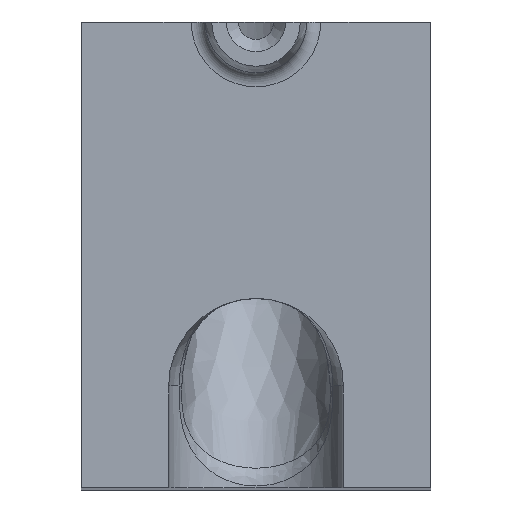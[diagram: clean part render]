
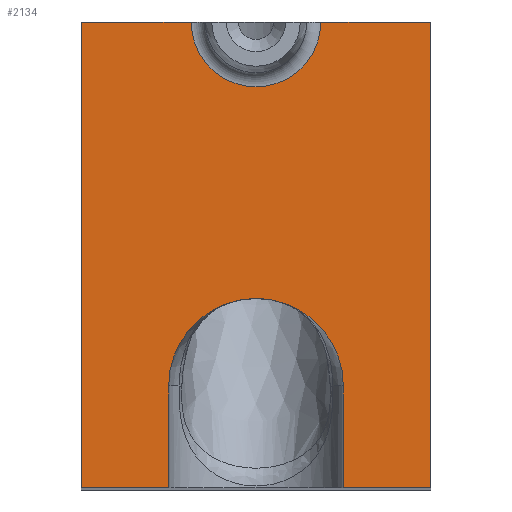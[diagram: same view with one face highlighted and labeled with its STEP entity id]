
A CAD part, top view. The second image highlights one B-rep face of the part: STEP entity #2134.
In plain terms, the highlighted planar face has unit normal (0, 0, 1).
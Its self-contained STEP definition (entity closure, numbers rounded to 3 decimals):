
#153=DIRECTION('',(0.,1.,0.));
#154=VECTOR('',#153,1.75);
#155=CARTESIAN_POINT('',(-1.5,-8.,0.));
#156=LINE('',#155,#154);
#197=DIRECTION('',(0.,-1.,0.));
#198=VECTOR('',#197,1.75);
#199=CARTESIAN_POINT('',(1.5,-6.25,0.));
#200=LINE('',#199,#198);
#206=DIRECTION('',(1.,0.,0.));
#207=VECTOR('',#206,1.5);
#208=CARTESIAN_POINT('',(1.5,-8.,0.));
#209=LINE('',#208,#207);
#218=DIRECTION('',(1.,0.,0.));
#219=VECTOR('',#218,1.5);
#220=CARTESIAN_POINT('',(-3.,-8.,0.));
#221=LINE('',#220,#219);
#222=DIRECTION('',(0.,1.,0.));
#223=VECTOR('',#222,8.);
#224=CARTESIAN_POINT('',(-3.,-8.,0.));
#225=LINE('',#224,#223);
#226=DIRECTION('',(1.,0.,0.));
#227=VECTOR('',#226,1.887);
#228=CARTESIAN_POINT('',(-3.,0.,0.));
#229=LINE('',#228,#227);
#230=CARTESIAN_POINT('',(0.,0.,0.));
#231=DIRECTION('',(0.,0.,1.));
#232=DIRECTION('',(-1.,0.,0.));
#233=AXIS2_PLACEMENT_3D('',#230,#231,#232);
#235=DIRECTION('',(1.,0.,0.));
#236=VECTOR('',#235,1.887);
#237=CARTESIAN_POINT('',(1.113,0.,0.));
#238=LINE('',#237,#236);
#239=DIRECTION('',(0.,-1.,0.));
#240=VECTOR('',#239,8.);
#241=CARTESIAN_POINT('',(3.,0.,0.));
#242=LINE('',#241,#240);
#243=CARTESIAN_POINT('',(0.,-6.25,0.));
#244=DIRECTION('',(0.,0.,1.));
#245=DIRECTION('',(1.,0.,0.));
#246=AXIS2_PLACEMENT_3D('',#243,#244,#245);
#248=CARTESIAN_POINT('',(0.,-6.25,0.));
#249=DIRECTION('',(0.,0.,1.));
#250=DIRECTION('',(0.,1.,0.));
#251=AXIS2_PLACEMENT_3D('',#248,#249,#250);
#1211=CARTESIAN_POINT('',(-1.113,0.,0.));
#1212=VERTEX_POINT('',#1211);
#1213=CARTESIAN_POINT('',(-3.,0.,0.));
#1214=VERTEX_POINT('',#1213);
#1219=CARTESIAN_POINT('',(3.,0.,0.));
#1220=VERTEX_POINT('',#1219);
#1221=CARTESIAN_POINT('',(1.113,0.,0.));
#1222=VERTEX_POINT('',#1221);
#1236=CARTESIAN_POINT('',(-1.5,-8.,0.));
#1237=CARTESIAN_POINT('',(1.5,-8.,0.));
#1238=VERTEX_POINT('',#1236);
#1239=VERTEX_POINT('',#1237);
#1240=CARTESIAN_POINT('',(-1.5,-6.25,0.));
#1241=VERTEX_POINT('',#1240);
#1242=CARTESIAN_POINT('',(1.5,-6.25,0.));
#1243=VERTEX_POINT('',#1242);
#1244=CARTESIAN_POINT('',(3.,-8.,0.));
#1245=VERTEX_POINT('',#1244);
#1250=CARTESIAN_POINT('',(-3.,-8.,0.));
#1251=VERTEX_POINT('',#1250);
#1252=CARTESIAN_POINT('',(0.,-4.75,0.));
#1253=VERTEX_POINT('',#1252);
#2111=CARTESIAN_POINT('',(0.,0.,0.));
#2112=DIRECTION('',(0.,0.,-1.));
#2113=DIRECTION('',(1.,0.,0.));
#2114=AXIS2_PLACEMENT_3D('',#2111,#2112,#2113);
#2115=PLANE('',#2114);
#2116=ORIENTED_EDGE('',*,*,#2106,.F.);
#2118=ORIENTED_EDGE('',*,*,#2117,.T.);
#2119=ORIENTED_EDGE('',*,*,#1516,.T.);
#2121=ORIENTED_EDGE('',*,*,#2120,.T.);
#2122=ORIENTED_EDGE('',*,*,#1524,.T.);
#2124=ORIENTED_EDGE('',*,*,#2123,.T.);
#2125=ORIENTED_EDGE('',*,*,#2098,.F.);
#2126=ORIENTED_EDGE('',*,*,#2087,.F.);
#2128=ORIENTED_EDGE('',*,*,#2127,.T.);
#2130=ORIENTED_EDGE('',*,*,#2129,.T.);
#2131=ORIENTED_EDGE('',*,*,#2080,.F.);
#2132=EDGE_LOOP('',(#2116,#2118,#2119,#2121,#2122,#2124,#2125,#2126,#2128,#2130,
#2131));
#2133=FACE_OUTER_BOUND('',#2132,.F.);
#2134=ADVANCED_FACE('',(#2133),#2115,.F.);
#234=CIRCLE('',#233,1.113);
#247=CIRCLE('',#246,1.5);
#252=CIRCLE('',#251,1.5);
#1516=EDGE_CURVE('',#1214,#1212,#229,.T.);
#1524=EDGE_CURVE('',#1222,#1220,#238,.T.);
#2080=EDGE_CURVE('',#1238,#1241,#156,.T.);
#2087=EDGE_CURVE('',#1243,#1239,#200,.T.);
#2098=EDGE_CURVE('',#1239,#1245,#209,.T.);
#2106=EDGE_CURVE('',#1251,#1238,#221,.T.);
#2117=EDGE_CURVE('',#1251,#1214,#225,.T.);
#2120=EDGE_CURVE('',#1212,#1222,#234,.T.);
#2123=EDGE_CURVE('',#1220,#1245,#242,.T.);
#2127=EDGE_CURVE('',#1243,#1253,#247,.T.);
#2129=EDGE_CURVE('',#1253,#1241,#252,.T.);
